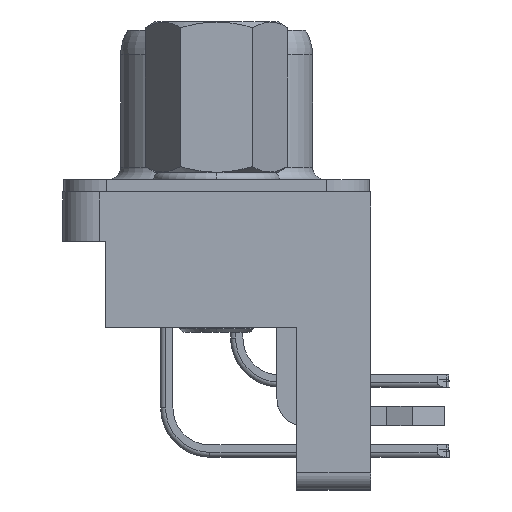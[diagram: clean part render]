
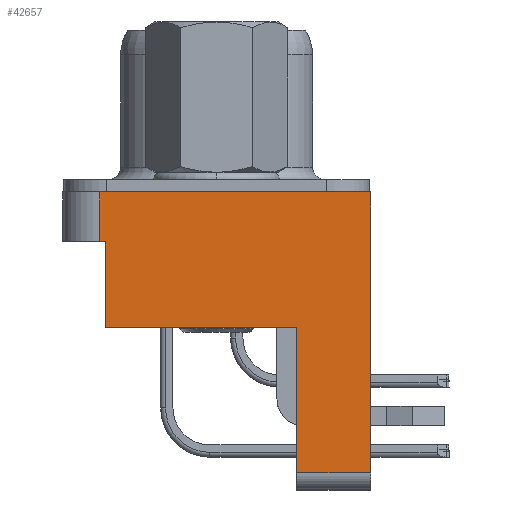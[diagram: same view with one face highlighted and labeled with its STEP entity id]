
A CAD part, left-side view. The second image highlights one B-rep face of the part: STEP entity #42657.
In plain terms, the highlighted planar face has unit normal (-1, 0, 0).
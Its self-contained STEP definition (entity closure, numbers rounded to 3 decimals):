
#806 = DIRECTION ( 'NONE',  ( 0., -1., 0. ) ) ;
#2451 = VERTEX_POINT ( 'NONE', #43486 ) ;
#2532 = VECTOR ( 'NONE', #4804, 1000. ) ;
#2623 = LINE ( 'NONE', #24275, #31640 ) ;
#2841 = LINE ( 'NONE', #28949, #36933 ) ;
#3192 = DIRECTION ( 'NONE',  ( 0., 0., 1. ) ) ;
#3483 = VERTEX_POINT ( 'NONE', #20677 ) ;
#4009 = ORIENTED_EDGE ( 'NONE', *, *, #14519, .F. ) ;
#4122 = CARTESIAN_POINT ( 'NONE',  ( -26.52, 4.75, -2. ) ) ;
#4804 = DIRECTION ( 'NONE',  ( 0., 0., -1. ) ) ;
#6318 = EDGE_CURVE ( 'NONE', #29759, #13191, #2841, .T. ) ;
#9418 = CARTESIAN_POINT ( 'NONE',  ( -26.52, -6.25, -11.4 ) ) ;
#9799 = ORIENTED_EDGE ( 'NONE', *, *, #23246, .T. ) ;
#10008 = CARTESIAN_POINT ( 'NONE',  ( -26.52, -6.25, -5.5 ) ) ;
#12408 = EDGE_CURVE ( 'NONE', #35198, #41864, #28143, .T. ) ;
#12770 = CARTESIAN_POINT ( 'NONE',  ( -26.52, 6.25, -5.5 ) ) ;
#13109 = ORIENTED_EDGE ( 'NONE', *, *, #46887, .T. ) ;
#13191 = VERTEX_POINT ( 'NONE', #28259 ) ;
#14519 = EDGE_CURVE ( 'NONE', #35198, #38521, #15955, .T. ) ;
#14566 = CARTESIAN_POINT ( 'NONE',  ( -26.52, 7.5, -2. ) ) ;
#14754 = VECTOR ( 'NONE', #37553, 1000. ) ;
#15139 = ORIENTED_EDGE ( 'NONE', *, *, #30490, .F. ) ;
#15955 = LINE ( 'NONE', #26540, #35318 ) ;
#17385 = EDGE_CURVE ( 'NONE', #46129, #38521, #37893, .T. ) ;
#20059 = LINE ( 'NONE', #44309, #33730 ) ;
#20677 = CARTESIAN_POINT ( 'NONE',  ( -26.52, -3.25, -5.5 ) ) ;
#20892 = ORIENTED_EDGE ( 'NONE', *, *, #12408, .T. ) ;
#22435 = FACE_OUTER_BOUND ( 'NONE', #34252, .T. ) ;
#23246 = EDGE_CURVE ( 'NONE', #29759, #3483, #2623, .T. ) ;
#23387 = PLANE ( 'NONE',  #33145 ) ;
#24275 = CARTESIAN_POINT ( 'NONE',  ( -26.52, 6.25, -5.5 ) ) ;
#25609 = CARTESIAN_POINT ( 'NONE',  ( -26.52, 4.5, -5.5 ) ) ;
#26466 = EDGE_CURVE ( 'NONE', #2451, #46129, #45463, .T. ) ;
#26540 = CARTESIAN_POINT ( 'NONE',  ( -26.52, 6.25, 0. ) ) ;
#26608 = ORIENTED_EDGE ( 'NONE', *, *, #17385, .T. ) ;
#27471 = ORIENTED_EDGE ( 'NONE', *, *, #26466, .T. ) ;
#28143 = LINE ( 'NONE', #30089, #2532 ) ;
#28259 = CARTESIAN_POINT ( 'NONE',  ( -26.52, 4.5, -2. ) ) ;
#28427 = VECTOR ( 'NONE', #28586, 1000. ) ;
#28586 = DIRECTION ( 'NONE',  ( 0., -1., 0. ) ) ;
#28949 = CARTESIAN_POINT ( 'NONE',  ( -26.52, 4.5, -5.5 ) ) ;
#29759 = VERTEX_POINT ( 'NONE', #25609 ) ;
#29907 = CARTESIAN_POINT ( 'NONE',  ( -26.52, -6.25, 0. ) ) ;
#30089 = CARTESIAN_POINT ( 'NONE',  ( -26.52, 4.75, -5.5 ) ) ;
#30490 = EDGE_CURVE ( 'NONE', #2451, #3483, #20059, .T. ) ;
#31640 = VECTOR ( 'NONE', #35415, 1000. ) ;
#33145 = AXIS2_PLACEMENT_3D ( 'NONE', #12770, #38041, #34689 ) ;
#33535 = CARTESIAN_POINT ( 'NONE',  ( -26.52, 4.75, 0. ) ) ;
#33730 = VECTOR ( 'NONE', #44784, 1000. ) ;
#34252 = EDGE_LOOP ( 'NONE', ( #9799, #15139, #27471, #26608, #4009, #20892, #13109, #42827 ) ) ;
#34689 = DIRECTION ( 'NONE',  ( 0., 0., 1. ) ) ;
#35198 = VERTEX_POINT ( 'NONE', #33535 ) ;
#35318 = VECTOR ( 'NONE', #806, 1000. ) ;
#35415 = DIRECTION ( 'NONE',  ( 0., -1., 0. ) ) ;
#36193 = VECTOR ( 'NONE', #38945, 1000. ) ;
#36933 = VECTOR ( 'NONE', #3192, 1000. ) ;
#37553 = DIRECTION ( 'NONE',  ( 0., -1., 0. ) ) ;
#37893 = LINE ( 'NONE', #10008, #36193 ) ;
#38041 = DIRECTION ( 'NONE',  ( -1., 0., 0. ) ) ;
#38521 = VERTEX_POINT ( 'NONE', #29907 ) ;
#38945 = DIRECTION ( 'NONE',  ( 0., 0., 1. ) ) ;
#39793 = LINE ( 'NONE', #14566, #28427 ) ;
#41532 = CARTESIAN_POINT ( 'NONE',  ( -26.52, -6.25, -11.4 ) ) ;
#41864 = VERTEX_POINT ( 'NONE', #4122 ) ;
#42657 = ADVANCED_FACE ( 'NONE', ( #22435 ), #23387, .T. ) ;
#42827 = ORIENTED_EDGE ( 'NONE', *, *, #6318, .F. ) ;
#43486 = CARTESIAN_POINT ( 'NONE',  ( -26.52, -3.25, -11.4 ) ) ;
#44309 = CARTESIAN_POINT ( 'NONE',  ( -26.52, -3.25, -5.5 ) ) ;
#44784 = DIRECTION ( 'NONE',  ( 0., 0., 1. ) ) ;
#45463 = LINE ( 'NONE', #41532, #14754 ) ;
#46129 = VERTEX_POINT ( 'NONE', #9418 ) ;
#46887 = EDGE_CURVE ( 'NONE', #41864, #13191, #39793, .T. ) ;
